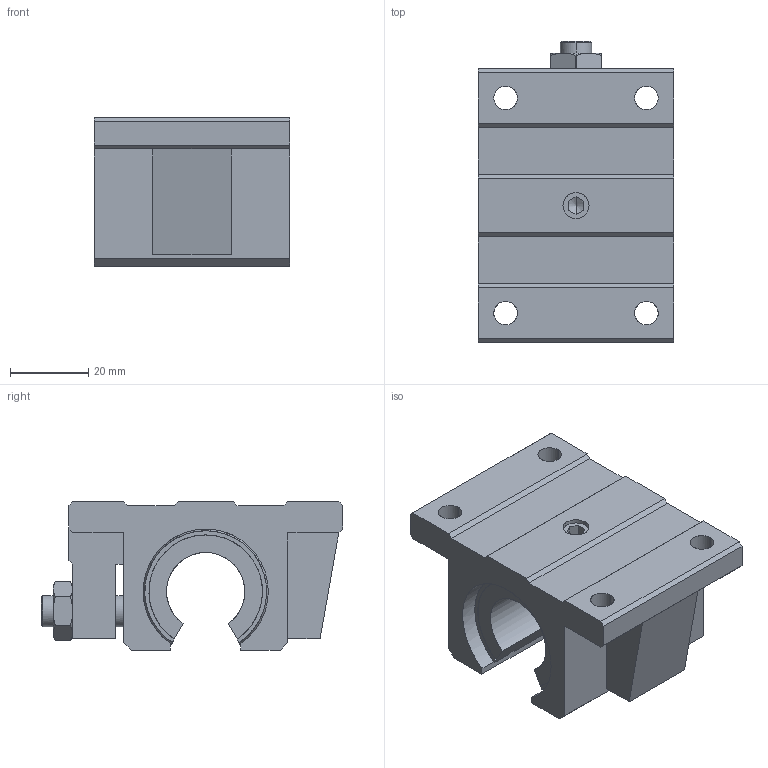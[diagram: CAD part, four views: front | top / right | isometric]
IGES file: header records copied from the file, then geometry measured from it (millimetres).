
Global section: file name: No Iges File Name specified; native system: AutoDesk Inventor R10; preprocessor: AutoDesk Inventor Iges Exporter R10; author: No Author specified; organization: No Organization specified; date: 20101221.091958; units: millimetre
Bounding box: 50 x 77 x 38 mm (x, y, z)
Surface area: 19675.4 mm2 (no closed solid volume)
Topology: 0 solids, 0 shells, 136 faces, 888 edges, 884 vertices
Faces by surface type: bspline 136
